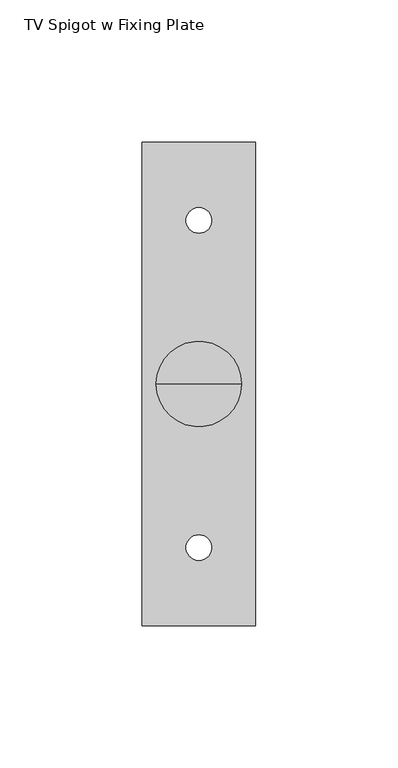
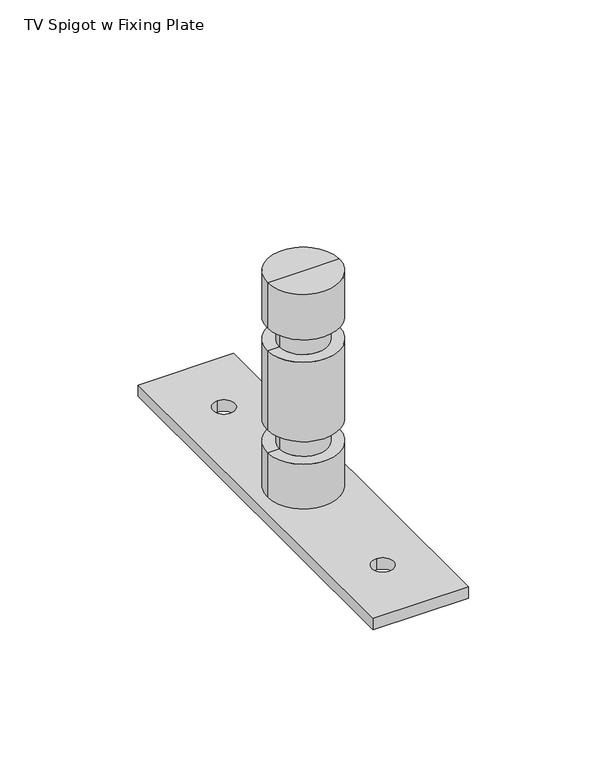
"""IFC4 building model written with IfcOpenShell, lengths in millimetres: proxy geometry, d&b TV Spigot w Fixing Plate : TV Spigot w Fixing Plate."""

from ifc_helpers import new_model, si_unit, point, frame, frame_2d, origin, origin_with_axes, place, context, project, spatial, polyline, circle_curve, trimmed, segment, composite_curve, outline, extrude, source, transform, mapped, element, save
from ifc_brep_helpers import plane_surface, cylinder_surface, advanced_brep


def tv_spigot_w_fixing_plate_9e7657d5(model_context):
    return source(origin(), model_context, "Body", "SolidModel", [
        extrude(outline(polyline([(20.0, 85.0000016), (20.0, -84.9999984), (-20.0, -84.9999984), (-20.0, 85.0000016), (20.0, 85.0000016)]), holes=[composite_curve([segment(trimmed(circle_curve(frame_2d((0.0, 57.5)), 4.5), [point((0.0, 62.0))], [point((0.0, 53.0))], True, "CARTESIAN"), True, "CONTINUOUS"), segment(trimmed(circle_curve(frame_2d((0.0, 57.5)), 4.5), [point((0.0, 53.0))], [point((0.0, 62.0))], True, "CARTESIAN"), True, "CONTINUOUS")], self_intersect=False), composite_curve([segment(trimmed(circle_curve(frame_2d((0.0, -57.5)), 4.5), [point((0.0, -62.0))], [point((0.0, -53.0))], True, "CARTESIAN"), True, "CONTINUOUS"), segment(trimmed(circle_curve(frame_2d((0.0, -57.5)), 4.5), [point((0.0, -53.0))], [point((0.0, -62.0))], True, "CARTESIAN"), True, "CONTINUOUS")], self_intersect=False)]), origin_with_axes(), (0.0, 0.0, 1.0), 4.9999997),
        advanced_brep(
        [(15.0, 0.0, 80.0), (-15.0, 0.0, 80.0), (-15.0, 0.0, 100.0), (15.0, 0.0, 100.0), (10.0, 0.0, 80.0), (-10.0, 0.0, 80.0), (10.0, 0.0, 70.0), (-10.0, 0.0, 70.0), (15.0, 0.0, 70.0), (-15.0, 0.0, 70.0), (15.0, 0.0, 34.9999997), (-15.0, 0.0, 34.9999997), (10.0, 0.0, 34.9999997), (-10.0, 0.0, 34.9999997), (10.0, 0.0, 24.9999997), (-10.0, 0.0, 24.9999997), (15.0, 0.0, 24.9999997), (-15.0, 0.0, 24.9999997), (15.0, 0.0, 4.9999997), (-15.0, 0.0, 4.9999997), (0.0, 0.0, 4.9999997), (0.0, 0.0, 100.0)],
        [
            (0, 1, circle_curve(frame((0.0, 0.0, 80.0), z_axis=(0.0, 0.0, 1.0), x_axis=(-1.0, 0.0, 0.0)), 15.0)),
            (1, 2),
            (2, 3, circle_curve(frame((0.0, 0.0, 100.0), z_axis=(0.0, 0.0, -1.0), x_axis=(-1.0, 0.0, 0.0)), 15.0)),
            (3, 0),
            (1, 0, circle_curve(frame((0.0, 0.0, 80.0), z_axis=(0.0, 0.0, 1.0), x_axis=(-1.0, 0.0, 0.0)), 15.0)),
            (3, 2, circle_curve(frame((0.0, 0.0, 100.0), z_axis=(0.0, 0.0, -1.0), x_axis=(-1.0, 0.0, 0.0)), 15.0)),
            (4, 5, circle_curve(frame((0.0, 0.0, 80.0), z_axis=(0.0, 0.0, 1.0), x_axis=(-1.0, 0.0, 0.0)), 10.0)),
            (5, 1),
            (0, 4),
            (5, 4, circle_curve(frame((0.0, 0.0, 80.0), z_axis=(0.0, 0.0, 1.0), x_axis=(-1.0, 0.0, 0.0)), 10.0)),
            (6, 7, circle_curve(frame((0.0, 0.0, 70.0), z_axis=(0.0, 0.0, 1.0), x_axis=(-1.0, 0.0, 0.0)), 10.0)),
            (7, 5),
            (4, 6),
            (7, 6, circle_curve(frame((0.0, 0.0, 70.0), z_axis=(0.0, 0.0, 1.0), x_axis=(-1.0, 0.0, 0.0)), 10.0)),
            (8, 9, circle_curve(frame((0.0, 0.0, 70.0), z_axis=(0.0, 0.0, 1.0), x_axis=(-1.0, 0.0, 0.0)), 15.0)),
            (9, 7),
            (6, 8),
            (9, 8, circle_curve(frame((0.0, 0.0, 70.0), z_axis=(0.0, 0.0, 1.0), x_axis=(-1.0, 0.0, 0.0)), 15.0)),
            (10, 11, circle_curve(frame((0.0, 0.0, 34.9999997), z_axis=(0.0, 0.0, 1.0), x_axis=(-1.0, 0.0, 0.0)), 15.0)),
            (11, 9),
            (8, 10),
            (11, 10, circle_curve(frame((0.0, 0.0, 34.9999997), z_axis=(0.0, 0.0, 1.0), x_axis=(-1.0, 0.0, 0.0)), 15.0)),
            (12, 13, circle_curve(frame((0.0, 0.0, 34.9999997), z_axis=(0.0, 0.0, 1.0), x_axis=(-1.0, 0.0, 0.0)), 10.0)),
            (13, 11),
            (10, 12),
            (13, 12, circle_curve(frame((0.0, 0.0, 34.9999997), z_axis=(0.0, 0.0, 1.0), x_axis=(-1.0, 0.0, 0.0)), 10.0)),
            (14, 15, circle_curve(frame((0.0, 0.0, 24.9999997), z_axis=(0.0, 0.0, 1.0), x_axis=(-1.0, 0.0, 0.0)), 10.0)),
            (15, 13),
            (12, 14),
            (15, 14, circle_curve(frame((0.0, 0.0, 24.9999997), z_axis=(0.0, 0.0, 1.0), x_axis=(-1.0, 0.0, 0.0)), 10.0)),
            (16, 17, circle_curve(frame((0.0, 0.0, 24.9999997), z_axis=(0.0, 0.0, 1.0), x_axis=(-1.0, 0.0, 0.0)), 15.0)),
            (17, 15),
            (14, 16),
            (17, 16, circle_curve(frame((0.0, 0.0, 24.9999997), z_axis=(0.0, 0.0, 1.0), x_axis=(-1.0, 0.0, 0.0)), 15.0)),
            (18, 19, circle_curve(frame((0.0, 0.0, 4.9999997), z_axis=(0.0, 0.0, 1.0), x_axis=(-1.0, 0.0, 0.0)), 15.0)),
            (19, 17),
            (16, 18),
            (19, 18, circle_curve(frame((0.0, 0.0, 4.9999997), z_axis=(0.0, 0.0, 1.0), x_axis=(-1.0, 0.0, 0.0)), 15.0)),
            (20, 19),
            (18, 20),
            (2, 21),
            (21, 3),
        ],
        [
            cylinder_surface(frame((0.0, 0.0, 120.0), z_axis=(0.0, 0.0, -1.0), x_axis=(-1.0, 0.0, 0.0)), 15.0),
            plane_surface(frame((0.0, 0.0, 80.0), z_axis=(0.0, 0.0, -1.0), x_axis=(-1.0, 0.0, 0.0))),
            cylinder_surface(frame((0.0, 0.0, 120.0), z_axis=(0.0, 0.0, -1.0), x_axis=(-1.0, 0.0, 0.0)), 10.0),
            plane_surface(frame((0.0, 0.0, 70.0), z_axis=(0.0, 0.0, 1.0), x_axis=(-1.0, 0.0, 0.0))),
            plane_surface(frame((0.0, 0.0, 34.9999997), z_axis=(0.0, 0.0, -1.0), x_axis=(-1.0, 0.0, 0.0))),
            plane_surface(frame((0.0, 0.0, 24.9999997), z_axis=(0.0, 0.0, 1.0), x_axis=(-1.0, 0.0, 0.0))),
            plane_surface(frame((0.0, 0.0, 4.9999997), z_axis=(0.0, 0.0, -1.0), x_axis=(-1.0, 0.0, 0.0))),
            plane_surface(frame((0.0, 0.0, 100.0), z_axis=(0.0, 0.0, 1.0), x_axis=(-1.0, 0.0, 0.0))),
        ],
        [
            (0, [[1, 2, 3, 4]]),
            (0, [[5, -4, 6, -2]]),
            (1, [[7, 8, -1, 9]]),
            (1, [[10, -9, -5, -8]]),
            (2, [[11, 12, -7, 13]]),
            (2, [[14, -13, -10, -12]]),
            (3, [[15, 16, -11, 17]]),
            (3, [[18, -17, -14, -16]]),
            (0, [[19, 20, -15, 21]]),
            (0, [[22, -21, -18, -20]]),
            (4, [[23, 24, -19, 25]]),
            (4, [[26, -25, -22, -24]]),
            (2, [[27, 28, -23, 29]]),
            (2, [[30, -29, -26, -28]]),
            (5, [[31, 32, -27, 33]]),
            (5, [[34, -33, -30, -32]]),
            (0, [[35, 36, -31, 37]]),
            (0, [[38, -37, -34, -36]]),
            (6, [[39, -35, 40]]),
            (6, [[-40, -38, -39]]),
            (7, [[-3, 41, 42]]),
            (7, [[-6, -42, -41]]),
        ],
    ),
    ])


if __name__ == "__main__":
    model = new_model("IFC4")
    model_context = context("Model", 3, world=origin())
    ifc_project = project(units=[si_unit("LENGTHUNIT", "METRE", prefix="MILLI")], contexts=[model_context])
    site = spatial("IfcSite", under=ifc_project)
    building = spatial("IfcBuilding", under=site)
    placement = place(None, origin())
    tv_spigot_w_fixing_plate_shape = tv_spigot_w_fixing_plate_9e7657d5(model_context)
    element("IfcBuildingElementProxy", 1, Name="d&b TV Spigot w Fixing Plate : TV Spigot w Fixing Plate", ObjectType="d&b TV Spigot w Fixing Plate : TV Spigot w Fixing Plate", at=placement, inside=building, context=model_context, shape_type="MappedRepresentation", body=[
        mapped(tv_spigot_w_fixing_plate_shape, transform((0.0, 0.0, 0.0), x_axis=(1.0, 0.0, 0.0), y_axis=(0.0, 1.0, 0.0), z_axis=(0.0, 0.0, 1.0))),
    ])
    save(model, "model.ifc")
